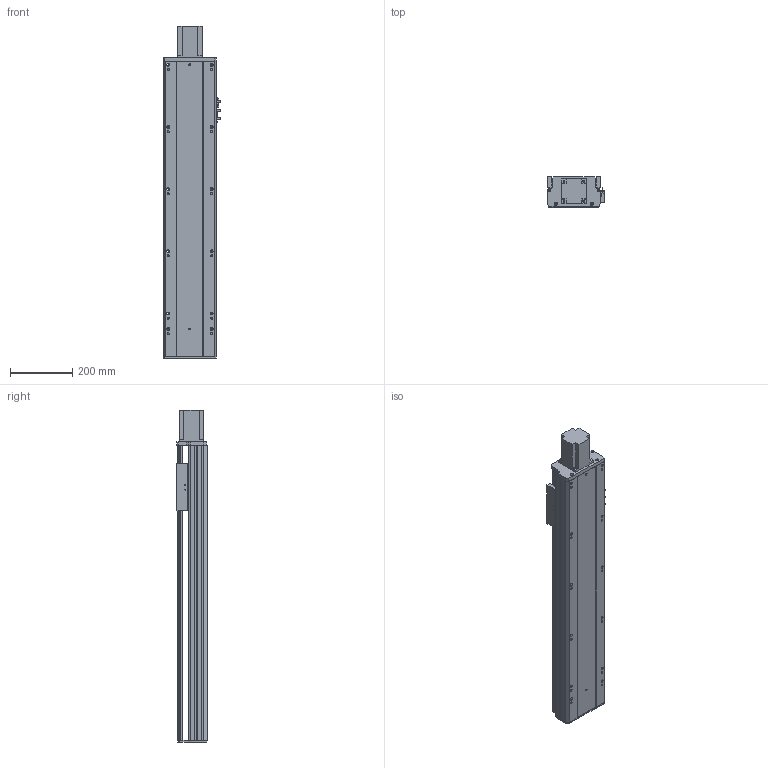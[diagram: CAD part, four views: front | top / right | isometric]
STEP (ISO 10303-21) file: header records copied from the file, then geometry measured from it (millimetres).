
FILE_DESCRIPTION (( 'STEP AP203' ), '1' );
FILE_NAME ('Y170-D10-S700-BD-P750W.STEP', '2020-01-22T06:54:30', ( '微软用户' ), ( '微软中国' ), 'SwSTEP 2.0', 'SolidWorks 2017', '' );
FILE_SCHEMA (( 'CONFIG_CONTROL_DESIGN' ));
Length unit declared in the file: millimetre
Products named in the file (10): 侂狟750W; Y170耜裔--準---; Y170-陔遴奻裔-BD; Y170--雄赽釱-梓--; YD-Y100-135-新外置传感挡片(通用）; Y170-D10-S700-BD-P750W; Y100-135俋离換覜ん; 170--掛极-BD; Y170-萇儂楊擘啣--; 135-盓傅釱-FK15
Assembly tree (11 placements, depth 2):
  Y170-D10-S700-BD-P750W
    YD-Y100-135-新外置传感挡片(通用）
    Y100-135俋离換覜ん  x3
    170--掛极-BD
    Y170-萇儂楊擘啣--
    135-盓傅釱-FK15
    侂狟750W
    Y170耜裔--準---
    Y170-陔遴奻裔-BD
    Y170--雄赽釱-梓--
Bounding box: 183.5 x 97 x 1068.5 mm (x, y, z)
Volume: 4732109.6 mm3; surface area: 1555085.9 mm2
Topology: 11 solids, 11 shells, 816 faces, 2307 edges, 1528 vertices
Faces by surface type: cylinder 426, plane 388, torus 2
Entity records: 26431 total; most frequent: CARTESIAN_POINT 4691, DIRECTION 4425, ORIENTED_EDGE 4278, EDGE_CURVE 2139, AXIS2_PLACEMENT_3D 1590, VERTEX_POINT 1416, VECTOR 1245, LINE 1245
